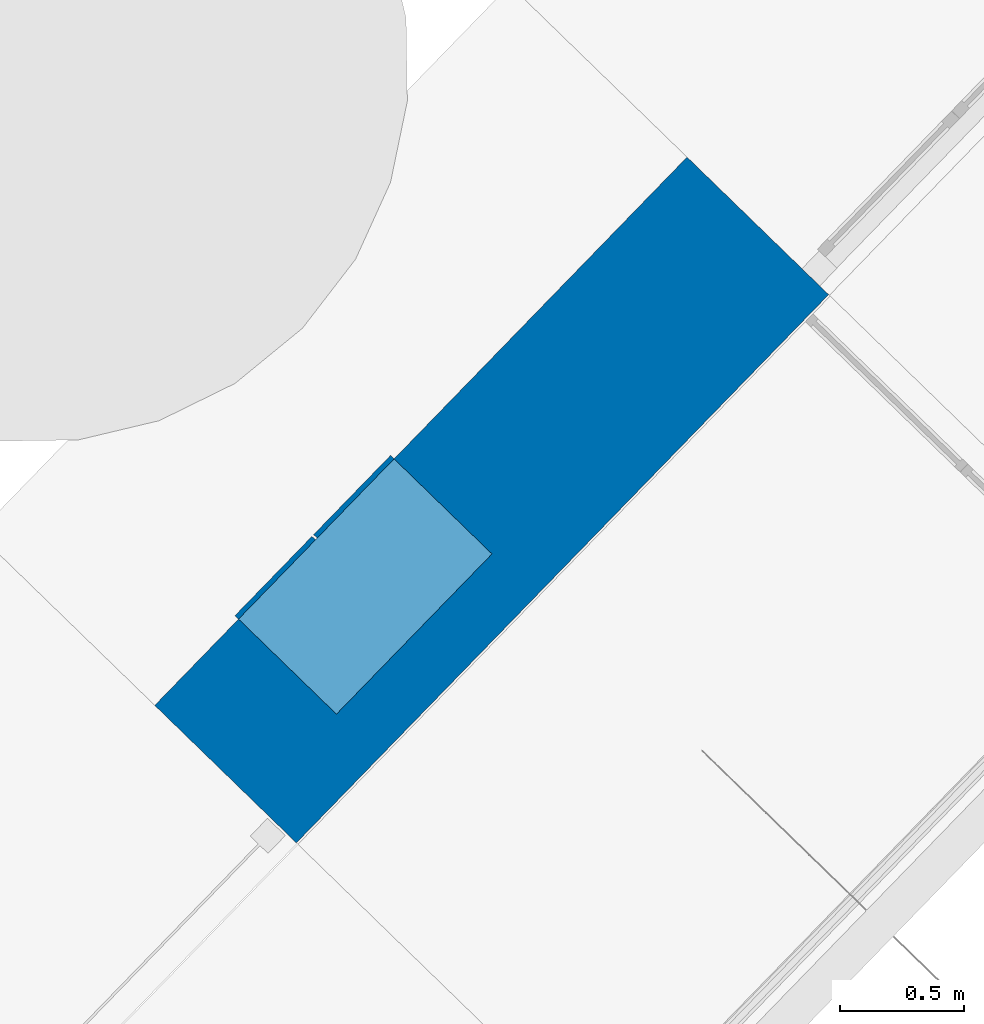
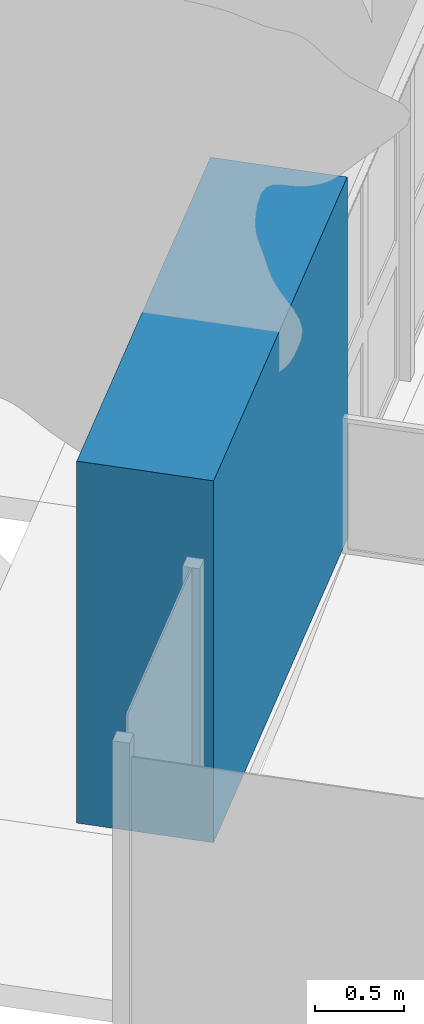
# One storey, part 21 of 37: 1 wall.
"""IFC2X3 building model written with IfcOpenShell, lengths in centimetres."""

from ifc_helpers import new_model, entity, si_unit, converted_unit, derived_unit, direction, frame, origin, place, context, subcontext, project, spatial, faceted_brep, material, type_object, element, save


model = new_model("IFC2X3")

# Units and contexts
model_context = context("Model", 3, precision=0.001, world=origin(), true_north=direction((0.717475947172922, 0.696583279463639)))
body_context = subcontext(model_context, "Body", "Model", "MODEL_VIEW")
ifc_project = project(units=[si_unit("LENGTHUNIT", "METRE", prefix="CENTI"), si_unit("AREAUNIT", "SQUARE_METRE"), si_unit("VOLUMEUNIT", "CUBIC_METRE"), converted_unit("PLANEANGLEUNIT", "DEGREE", entity("IfcRatioMeasure", 0.0174532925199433), si_unit("PLANEANGLEUNIT", "RADIAN"), dimensions=[0, 0, 0, 0, 0, 0, 0]), si_unit("MASSUNIT", "GRAM", prefix="KILO"), derived_unit("MASSDENSITYUNIT", [(si_unit("MASSUNIT", "GRAM", prefix="KILO"), 1), (si_unit("LENGTHUNIT", "METRE"), -3)]), si_unit("TIMEUNIT", "SECOND"), si_unit("FREQUENCYUNIT", "HERTZ"), si_unit("THERMODYNAMICTEMPERATUREUNIT", "DEGREE_CELSIUS"), derived_unit("THERMALTRANSMITTANCEUNIT", [(si_unit("MASSUNIT", "GRAM", prefix="KILO"), 1), (si_unit("THERMODYNAMICTEMPERATUREUNIT", "KELVIN"), -1), (si_unit("TIMEUNIT", "SECOND"), -3)]), derived_unit("VOLUMETRICFLOWRATEUNIT", [(si_unit("LENGTHUNIT", "METRE"), 3), (si_unit("TIMEUNIT", "SECOND"), -1)]), si_unit("ELECTRICCURRENTUNIT", "AMPERE"), si_unit("ELECTRICVOLTAGEUNIT", "VOLT"), si_unit("POWERUNIT", "WATT"), si_unit("FORCEUNIT", "NEWTON", prefix="KILO"), si_unit("ILLUMINANCEUNIT", "LUX"), si_unit("LUMINOUSFLUXUNIT", "LUMEN"), si_unit("LUMINOUSINTENSITYUNIT", "CANDELA"), derived_unit("USERDEFINED", [(si_unit("MASSUNIT", "GRAM", prefix="KILO"), -1), (si_unit("LENGTHUNIT", "METRE"), -2), (si_unit("TIMEUNIT", "SECOND"), 3), (si_unit("LUMINOUSFLUXUNIT", "LUMEN"), 1)]), derived_unit("LINEARVELOCITYUNIT", [(si_unit("LENGTHUNIT", "METRE"), 1), (si_unit("TIMEUNIT", "SECOND"), -1)]), si_unit("PRESSUREUNIT", "PASCAL"), derived_unit("USERDEFINED", [(si_unit("LENGTHUNIT", "METRE"), -2), (si_unit("MASSUNIT", "GRAM", prefix="KILO"), 1), (si_unit("TIMEUNIT", "SECOND"), -2)])], contexts=[model_context])

# Site, building, storey
site_placement = place(None, frame((0.0, 0.0, 0.0), z_axis=(0.0, 0.0, 1.0), x_axis=(0.696583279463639, 0.717475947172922, 0.0)))
site = spatial("IfcSite", under=ifc_project, at=site_placement, Name="Surface", CompositionType="ELEMENT")
building_placement = place(site_placement, origin())
building = spatial("IfcBuilding", under=site, at=building_placement, CompositionType="ELEMENT")
storey_placement = place(building_placement, origin())
storey = spatial("IfcBuildingStorey", under=building, at=storey_placement, Name="Nivel 0.00", CompositionType="ELEMENT", Elevation=0.0)

# Wall
ifc_material = material(Name="ARQ_AlUMINIO_NEGRO")
wall_type = type_object("IfcWallType", Name="MURO_NICHO1:MURO_NICHO", PredefinedType="NOTDEFINED", material=ifc_material)
wall_placement = place(storey_placement, frame((-2213.75711158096, 762.923167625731, 155.0)))
element("IfcWall", 1, at=wall_placement, inside=storey, type_object=wall_type, material=ifc_material, Name="MURO_NICHO1:MURO_NICHO", ObjectType="MURO_NICHO1:MURO_NICHO", context=body_context, shape_type="Brep", body=[
    faceted_brep([(92.9779426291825, 81.5481185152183, 96.7857405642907), (92.9779426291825, 81.5481185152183, 37.087484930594), (48.47794262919, 81.5481185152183, 37.087484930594), (48.47794262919, 81.5481185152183, 96.7857405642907), (92.9779426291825, 79.5481185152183, 96.7857405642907), (92.9779426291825, 79.5481185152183, 37.087484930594), (48.47794262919, 79.5481185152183, 37.087484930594), (48.47794262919, 79.5481185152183, 96.7857405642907)], [[[0, 1, 2, 3]], [[1, 0, 4, 5]], [[2, 1, 5, 6]], [[3, 2, 6, 7]], [[0, 3, 7, 4]], [[4, 7, 6, 5]]]),
    faceted_brep([(93.9779426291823, 79.5481185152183, 96.7857405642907), (93.9779426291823, 79.5481185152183, 37.087484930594), (138.477942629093, 79.5481185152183, 37.087484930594), (138.477942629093, 79.5481185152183, 96.7857405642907), (138.477942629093, 81.5481185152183, 96.7857405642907), (93.9779426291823, 81.5481185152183, 96.7857405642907), (138.477942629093, 81.5481185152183, 37.087484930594), (93.9779426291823, 81.5481185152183, 37.087484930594)], [[[0, 1, 2, 3]], [[4, 5, 0, 3]], [[6, 4, 3, 2]], [[7, 6, 2, 1]], [[5, 7, 1, 0]], [[5, 4, 6, 7]]]),
    faceted_brep([(307.999956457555, 79.5481185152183, 249.000358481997), (0.0, 79.5481185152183, 249.000358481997), (0.0, 0.0, 249.000358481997), (307.999956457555, 0.0, 249.000358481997), (307.999956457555, 79.5481185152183, 0.0), (307.999956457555, 0.0, 0.0), (0.0, 0.0, 0.0), (0.0, 79.5481185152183, 0.0), (138.477942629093, 79.5481185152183, 96.7857405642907), (48.47794262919, 79.5481185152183, 96.7857405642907), (48.47794262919, 79.5481185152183, 37.087484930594), (138.477942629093, 79.5481185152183, 37.087484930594), (248.280419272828, 79.5481185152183, 186.805795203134), (248.280419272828, 79.5481185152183, 138.805795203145), (278.280419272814, 79.5481185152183, 138.805795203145), (278.280419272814, 79.5481185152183, 186.805795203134), (138.477942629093, 24.5481185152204, 96.7857405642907), (48.47794262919, 24.5481185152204, 96.7857405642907), (48.47794262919, 24.5481185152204, 37.087484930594), (138.477942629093, 24.5481185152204, 37.087484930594), (248.280419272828, 49.548118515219, 186.805795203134), (278.280419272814, 49.548118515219, 186.805795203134), (278.280419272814, 49.548118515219, 138.805795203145), (248.280419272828, 49.548118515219, 138.805795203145)], [[[0, 1, 2, 3]], [[4, 5, 6, 7]], [[1, 0, 4, 7], [8, 9, 10, 11], [12, 13, 14, 15]], [[2, 1, 7, 6]], [[3, 2, 6, 5]], [[0, 3, 5, 4]], [[8, 16, 17, 9]], [[10, 18, 19, 11]], [[9, 17, 18, 10]], [[17, 16, 19, 18]], [[16, 8, 11, 19]], [[20, 21, 22, 23]], [[20, 23, 13, 12]], [[23, 22, 14, 13]], [[22, 21, 15, 14]], [[21, 20, 12, 15]]]),
])

save(model, "model.ifc")
